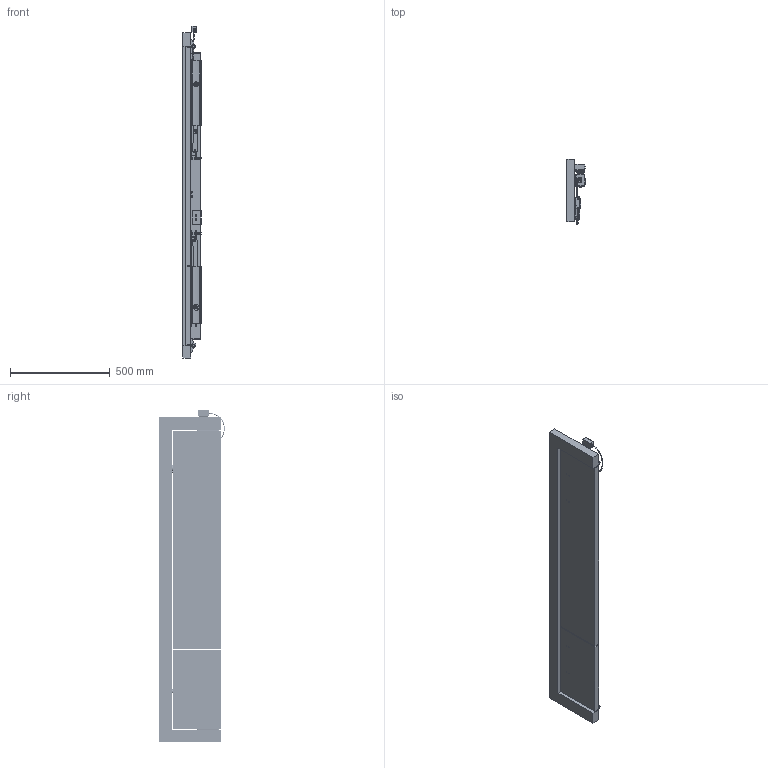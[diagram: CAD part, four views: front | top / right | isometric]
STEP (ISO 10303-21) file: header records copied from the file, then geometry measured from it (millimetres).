
FILE_DESCRIPTION(('Creo Elements/Direct Modeling STEP Export'),'2;1');
FILE_NAME('TS5000_R_ISM_EFS-20547-K-005_M_Montageplatte.stp','2015-05-21T 9:40:19',(''),(''),'Creo Elements/Direct Modeling STEP processor for AP214 (Solid Model)','Creo Elements/Direct Modeling 17.0D 15-Jul-2011 (C) Parametric Technology GmbH','');
FILE_SCHEMA(('AUTOMOTIVE_DESIGN { 1 0 10303 214 1 1 1 1 }'));
Length unit declared in the file: millimetre
Products named in the file (47): Türblatt_SF; SF_TF; Türblatt_GF; Gf_TF; Rahmen; Band_Rahmen_GF; Band_Fluegel_GF; Band_Rahmen_SF; Band_Fluegel_SF; Baender; T1.1; Holztuer_Schliesser_TS5000; Anschlusskasten.1; Tueruebergangskabel_komplett.1; MONTAGEPLATTE_TS4000_TS5000.1; 91420A330.1.1.1.1; Schliesser.1; Schieber.1; Endkappe.1; Mitnehmer.1; Hebel.1; TS5000EFS; 20520-2-2170.1; Schraube_DIN912_M6x45_Mat_057153.2; 20525-2-0211.1.1; 20510-2-2036_EZ1.1.1.1; TS5000; MONTAGEPLATTE_TS4000E_TS5000E; 20540-2-0304.1; 20540-1-0132_GF_RIS_EIS; 20540-2-0305.2; 20540-6-0865.1; 20540-1-0133_SF_RIS_EIS; 20540-6-0926.2.1.1; 20540-1-0142_Zubehoer-Sichtkappen_55mm; 20540-2-0307.1.1.1.1; 20540-2-0308.1.1; 20540-6-0919.1; 20540-2-0307.1.1.1; Einzelteile_R-ISM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
Assembly tree (62 placements, depth 4):
  TS5000_ISM_EFS-20547-K-004
    TS5000_RIS-Gleitschiene.1
      20540-1-0137_Schraubenzubehoer_R-ISM
        ABC-Spax_5x55.5  x5
        Scheibe_DIN_9021_-_5.3_-_.1
        Flachkopfschraube_ISO7045_M4x8H.1  x2
        Spannscheibe_DIN_6796-5-FST.3  x4
      Einzelteile_R-ISM
        20540-2-0307.1.1.1
        20540-6-0919.1
        20540-2-0308.1.1
        20540-2-0307.1.1.1.1
      20540-1-0142_Zubehoer-Sichtkappen_55mm
        20540-6-0926.2.1.1  x2
      20540-1-0133_SF_RIS_EIS
        20540-6-0865.1
        20540-2-0305.2
      20540-1-0132_GF_RIS_EIS
        20540-2-0304.1
    MONTAGEPLATTE_TS4000E_TS5000E
    TS5000
      20510-2-2036_EZ1.1.1.1
      20525-2-0211.1.1
      Schraube_DIN912_M6x45_Mat_057153.2
      20520-2-2170.1
    TS5000EFS
      Hebel.1
      Mitnehmer.1
      Endkappe.1
      Schieber.1
      Schliesser.1
    91420A330.1.1.1.1  x8
    MONTAGEPLATTE_TS4000_TS5000.1
    Tueruebergangskabel_komplett.1
      Anschlusskasten.1
    Holztuer_Schliesser_TS5000
      T1.1
      Baender
        Band_Fluegel_SF
        Band_Rahmen_SF
        Band_Fluegel_GF
        Band_Rahmen_GF
      Rahmen
      Gf_TF
        Türblatt_GF
      SF_TF
        Türblatt_SF
Bounding box: 91.79 x 329.33 x 1666.98 mm (x, y, z)
Volume: 16934576.9 mm3; surface area: 2244837.8 mm2
Topology: 47 solids, 51 shells, 7116 faces, 18965 edges, 12155 vertices
Faces by surface type: plane 3572, cylinder 1842, cone 1118, extrusion 386, torus 161, sphere 29, bspline 8
Entity records: 195955 total; most frequent: CARTESIAN_POINT 64562, ORIENTED_EDGE 28445, DIRECTION 23957, EDGE_CURVE 14225, VECTOR 10563, LINE 10177, VERTEX_POINT 9303, AXIS2_PLACEMENT_3D 6697
